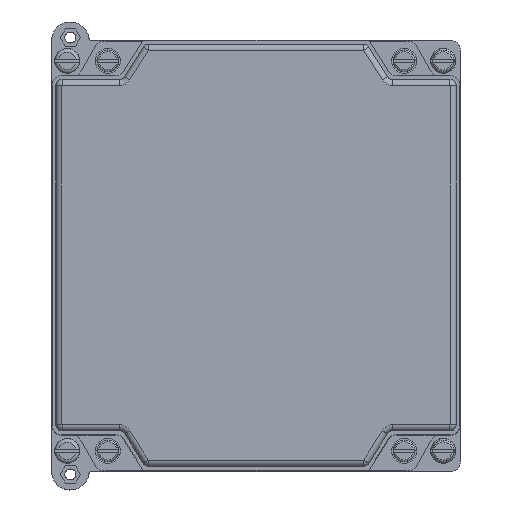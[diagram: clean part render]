
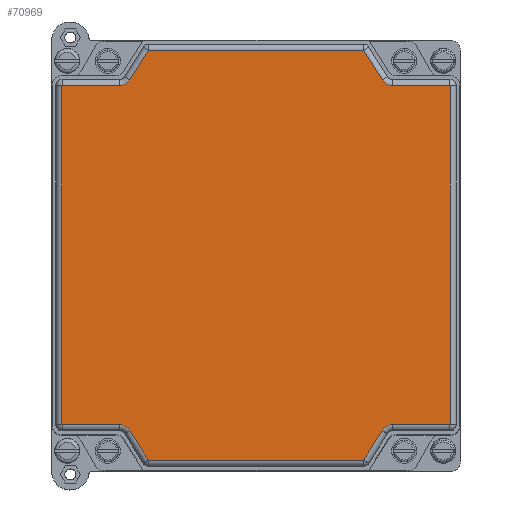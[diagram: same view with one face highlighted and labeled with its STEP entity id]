
A CAD part, top view. The second image highlights one B-rep face of the part: STEP entity #70969.
In plain terms, the highlighted planar face has unit normal (0, 0, 1).
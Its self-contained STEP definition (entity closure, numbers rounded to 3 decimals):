
#70969=ADVANCED_FACE('',(#140885),#140887,.T.);
#140885=FACE_BOUND('',#140886,.T.);
#140886=EDGE_LOOP('',(#192592,#192593,#192594,#192595,#192596,#192597,#192598,#192599,
#192600,#192601,#192602,#192603,#192604,#192605,#192606,#192607,#192608,#192609,
#192610,#192611,#192612,#192613,#192614,#192615));
#140887=PLANE('',#140888);
#140888=AXIS2_PLACEMENT_3D('',#140889,#140890,#140891);
#140889=CARTESIAN_POINT('',(0.,0.,156.5));
#140890=DIRECTION('',(0.,0.,1.));
#140891=DIRECTION('',(1.,0.,0.));
#192592=ORIENTED_EDGE('',*,*,#217569,.T.);
#192593=ORIENTED_EDGE('',*,*,#217616,.T.);
#192594=ORIENTED_EDGE('',*,*,#217614,.T.);
#192595=ORIENTED_EDGE('',*,*,#217612,.T.);
#192596=ORIENTED_EDGE('',*,*,#217610,.T.);
#192597=ORIENTED_EDGE('',*,*,#217608,.T.);
#192598=ORIENTED_EDGE('',*,*,#217606,.T.);
#192599=ORIENTED_EDGE('',*,*,#217604,.T.);
#192600=ORIENTED_EDGE('',*,*,#217602,.T.);
#192601=ORIENTED_EDGE('',*,*,#217600,.T.);
#192602=ORIENTED_EDGE('',*,*,#217598,.T.);
#192603=ORIENTED_EDGE('',*,*,#217596,.T.);
#192604=ORIENTED_EDGE('',*,*,#217594,.T.);
#192605=ORIENTED_EDGE('',*,*,#217592,.T.);
#192606=ORIENTED_EDGE('',*,*,#217590,.T.);
#192607=ORIENTED_EDGE('',*,*,#217588,.T.);
#192608=ORIENTED_EDGE('',*,*,#217586,.T.);
#192609=ORIENTED_EDGE('',*,*,#217584,.T.);
#192610=ORIENTED_EDGE('',*,*,#217582,.T.);
#192611=ORIENTED_EDGE('',*,*,#217580,.T.);
#192612=ORIENTED_EDGE('',*,*,#217578,.T.);
#192613=ORIENTED_EDGE('',*,*,#217576,.T.);
#192614=ORIENTED_EDGE('',*,*,#217574,.T.);
#192615=ORIENTED_EDGE('',*,*,#217572,.T.);
#217569=EDGE_CURVE('',#254142,#254143,#254144,.T.);
#217572=EDGE_CURVE('',#254147,#254142,#254148,.T.);
#217574=EDGE_CURVE('',#254150,#254147,#254151,.T.);
#217576=EDGE_CURVE('',#254153,#254150,#254154,.T.);
#217578=EDGE_CURVE('',#254156,#254153,#254157,.T.);
#217580=EDGE_CURVE('',#254159,#254156,#254160,.T.);
#217582=EDGE_CURVE('',#254162,#254159,#254163,.T.);
#217584=EDGE_CURVE('',#254165,#254162,#254166,.T.);
#217586=EDGE_CURVE('',#254168,#254165,#254169,.T.);
#217588=EDGE_CURVE('',#254171,#254168,#254172,.T.);
#217590=EDGE_CURVE('',#254174,#254171,#254175,.T.);
#217592=EDGE_CURVE('',#254177,#254174,#254178,.T.);
#217594=EDGE_CURVE('',#254180,#254177,#254181,.T.);
#217596=EDGE_CURVE('',#254183,#254180,#254184,.T.);
#217598=EDGE_CURVE('',#254186,#254183,#254187,.T.);
#217600=EDGE_CURVE('',#254189,#254186,#254190,.T.);
#217602=EDGE_CURVE('',#254192,#254189,#254193,.T.);
#217604=EDGE_CURVE('',#254195,#254192,#254196,.T.);
#217606=EDGE_CURVE('',#254198,#254195,#254199,.T.);
#217608=EDGE_CURVE('',#254201,#254198,#254202,.T.);
#217610=EDGE_CURVE('',#254204,#254201,#254205,.T.);
#217612=EDGE_CURVE('',#254207,#254204,#254208,.T.);
#217614=EDGE_CURVE('',#254210,#254207,#254211,.T.);
#217616=EDGE_CURVE('',#254143,#254210,#254213,.T.);
#254142=VERTEX_POINT('',#336805);
#254143=VERTEX_POINT('',#336806);
#254144=LINE('',#336807,#336808);
#254147=VERTEX_POINT('',#336818);
#254148=CIRCLE('',#336819,0.064);
#254150=VERTEX_POINT('',#336827);
#254151=LINE('',#336828,#336829);
#254153=VERTEX_POINT('',#336835);
#254154=CIRCLE('',#336836,3.936);
#254156=VERTEX_POINT('',#336844);
#254157=LINE('',#336845,#336846);
#254159=VERTEX_POINT('',#336852);
#254160=CIRCLE('',#336853,0.064);
#254162=VERTEX_POINT('',#336861);
#254163=LINE('',#336862,#336863);
#254165=VERTEX_POINT('',#336869);
#254166=CIRCLE('',#336870,0.064);
#254168=VERTEX_POINT('',#336878);
#254169=LINE('',#336879,#336880);
#254171=VERTEX_POINT('',#336886);
#254172=CIRCLE('',#336887,3.936);
#254174=VERTEX_POINT('',#336895);
#254175=LINE('',#336896,#336897);
#254177=VERTEX_POINT('',#336903);
#254178=CIRCLE('',#336904,0.064);
#254180=VERTEX_POINT('',#336912);
#254181=LINE('',#336913,#336914);
#254183=VERTEX_POINT('',#336920);
#254184=CIRCLE('',#336921,0.064);
#254186=VERTEX_POINT('',#336929);
#254187=LINE('',#336930,#336931);
#254189=VERTEX_POINT('',#336937);
#254190=CIRCLE('',#336938,3.936);
#254192=VERTEX_POINT('',#336946);
#254193=LINE('',#336947,#336948);
#254195=VERTEX_POINT('',#336954);
#254196=CIRCLE('',#336955,0.064);
#254198=VERTEX_POINT('',#336963);
#254199=LINE('',#336964,#336965);
#254201=VERTEX_POINT('',#336971);
#254202=CIRCLE('',#336972,0.064);
#254204=VERTEX_POINT('',#336980);
#254205=LINE('',#336981,#336982);
#254207=VERTEX_POINT('',#336988);
#254208=CIRCLE('',#336989,3.936);
#254210=VERTEX_POINT('',#336997);
#254211=LINE('',#336998,#336999);
#254213=CIRCLE('',#337005,0.064);
#336805=CARTESIAN_POINT('',(-62.214,54.3,156.5));
#336806=CARTESIAN_POINT('',(-62.214,-54.3,156.5));
#336807=CARTESIAN_POINT('',(-62.214,54.3,156.5));
#336808=VECTOR('',#336809,1.);
#336809=DIRECTION('',(0.,-1.,0.));
#336818=CARTESIAN_POINT('',(-62.15,54.364,156.5));
#336819=AXIS2_PLACEMENT_3D('',#336820,#336821,#336822);
#336820=CARTESIAN_POINT('',(-62.15,54.3,156.5));
#336821=DIRECTION('',(0.,0.,1.));
#336822=DIRECTION('',(0.,1.,0.));
#336827=CARTESIAN_POINT('',(-43.822,54.364,156.5));
#336828=CARTESIAN_POINT('',(-43.822,54.364,156.5));
#336829=VECTOR('',#336830,1.);
#336830=DIRECTION('',(-1.,0.,0.));
#336835=CARTESIAN_POINT('',(-40.492,56.201,156.5));
#336836=AXIS2_PLACEMENT_3D('',#336837,#336838,#336839);
#336837=CARTESIAN_POINT('',(-43.822,58.3,156.5));
#336838=DIRECTION('',(0.,0.,-1.));
#336839=DIRECTION('',(0.846,-0.533,0.));
#336844=CARTESIAN_POINT('',(-34.513,65.684,156.5));
#336845=CARTESIAN_POINT('',(-34.513,65.684,156.5));
#336846=VECTOR('',#336847,1.);
#336847=DIRECTION('',(-0.533,-0.846,0.));
#336852=CARTESIAN_POINT('',(-34.46,65.714,156.5));
#336853=AXIS2_PLACEMENT_3D('',#336854,#336855,#336856);
#336854=CARTESIAN_POINT('',(-34.46,65.65,156.5));
#336855=DIRECTION('',(0.,0.,1.));
#336856=DIRECTION('',(0.,1.,0.));
#336861=CARTESIAN_POINT('',(34.46,65.714,156.5));
#336862=CARTESIAN_POINT('',(34.46,65.714,156.5));
#336863=VECTOR('',#336864,1.);
#336864=DIRECTION('',(-1.,0.,0.));
#336869=CARTESIAN_POINT('',(34.513,65.684,156.5));
#336870=AXIS2_PLACEMENT_3D('',#336871,#336872,#336873);
#336871=CARTESIAN_POINT('',(34.46,65.65,156.5));
#336872=DIRECTION('',(0.,0.,1.));
#336873=DIRECTION('',(0.846,0.533,0.));
#336878=CARTESIAN_POINT('',(40.492,56.201,156.5));
#336879=CARTESIAN_POINT('',(40.492,56.201,156.5));
#336880=VECTOR('',#336881,1.);
#336881=DIRECTION('',(-0.533,0.846,0.));
#336886=CARTESIAN_POINT('',(43.822,54.364,156.5));
#336887=AXIS2_PLACEMENT_3D('',#336888,#336889,#336890);
#336888=CARTESIAN_POINT('',(43.822,58.3,156.5));
#336889=DIRECTION('',(0.,0.,-1.));
#336890=DIRECTION('',(0.,-1.,0.));
#336895=CARTESIAN_POINT('',(62.15,54.364,156.5));
#336896=CARTESIAN_POINT('',(62.15,54.364,156.5));
#336897=VECTOR('',#336898,1.);
#336898=DIRECTION('',(-1.,0.,0.));
#336903=CARTESIAN_POINT('',(62.214,54.3,156.5));
#336904=AXIS2_PLACEMENT_3D('',#336905,#336906,#336907);
#336905=CARTESIAN_POINT('',(62.15,54.3,156.5));
#336906=DIRECTION('',(0.,0.,1.));
#336907=DIRECTION('',(1.,0.,0.));
#336912=CARTESIAN_POINT('',(62.214,-54.3,156.5));
#336913=CARTESIAN_POINT('',(62.214,-54.3,156.5));
#336914=VECTOR('',#336915,1.);
#336915=DIRECTION('',(0.,1.,0.));
#336920=CARTESIAN_POINT('',(62.15,-54.364,156.5));
#336921=AXIS2_PLACEMENT_3D('',#336922,#336923,#336924);
#336922=CARTESIAN_POINT('',(62.15,-54.3,156.5));
#336923=DIRECTION('',(0.,0.,1.));
#336924=DIRECTION('',(0.,-1.,0.));
#336929=CARTESIAN_POINT('',(43.822,-54.364,156.5));
#336930=CARTESIAN_POINT('',(43.822,-54.364,156.5));
#336931=VECTOR('',#336932,1.);
#336932=DIRECTION('',(1.,0.,0.));
#336937=CARTESIAN_POINT('',(40.492,-56.201,156.5));
#336938=AXIS2_PLACEMENT_3D('',#336939,#336940,#336941);
#336939=CARTESIAN_POINT('',(43.822,-58.3,156.5));
#336940=DIRECTION('',(0.,0.,-1.));
#336941=DIRECTION('',(-0.846,0.533,0.));
#336946=CARTESIAN_POINT('',(34.513,-65.684,156.5));
#336947=CARTESIAN_POINT('',(34.513,-65.684,156.5));
#336948=VECTOR('',#336949,1.);
#336949=DIRECTION('',(0.533,0.846,0.));
#336954=CARTESIAN_POINT('',(34.46,-65.714,156.5));
#336955=AXIS2_PLACEMENT_3D('',#336956,#336957,#336958);
#336956=CARTESIAN_POINT('',(34.46,-65.65,156.5));
#336957=DIRECTION('',(0.,0.,1.));
#336958=DIRECTION('',(0.,-1.,0.));
#336963=CARTESIAN_POINT('',(-34.46,-65.714,156.5));
#336964=CARTESIAN_POINT('',(-34.46,-65.714,156.5));
#336965=VECTOR('',#336966,1.);
#336966=DIRECTION('',(1.,0.,0.));
#336971=CARTESIAN_POINT('',(-34.513,-65.684,156.5));
#336972=AXIS2_PLACEMENT_3D('',#336973,#336974,#336975);
#336973=CARTESIAN_POINT('',(-34.46,-65.65,156.5));
#336974=DIRECTION('',(0.,0.,1.));
#336975=DIRECTION('',(-0.846,-0.533,0.));
#336980=CARTESIAN_POINT('',(-40.492,-56.201,156.5));
#336981=CARTESIAN_POINT('',(-40.492,-56.201,156.5));
#336982=VECTOR('',#336983,1.);
#336983=DIRECTION('',(0.533,-0.846,0.));
#336988=CARTESIAN_POINT('',(-43.822,-54.364,156.5));
#336989=AXIS2_PLACEMENT_3D('',#336990,#336991,#336992);
#336990=CARTESIAN_POINT('',(-43.822,-58.3,156.5));
#336991=DIRECTION('',(0.,0.,-1.));
#336992=DIRECTION('',(0.,1.,0.));
#336997=CARTESIAN_POINT('',(-62.15,-54.364,156.5));
#336998=CARTESIAN_POINT('',(-62.15,-54.364,156.5));
#336999=VECTOR('',#337000,1.);
#337000=DIRECTION('',(1.,0.,0.));
#337005=AXIS2_PLACEMENT_3D('',#337006,#337007,#337008);
#337006=CARTESIAN_POINT('',(-62.15,-54.3,156.5));
#337007=DIRECTION('',(0.,0.,1.));
#337008=DIRECTION('',(-1.,0.,0.));
